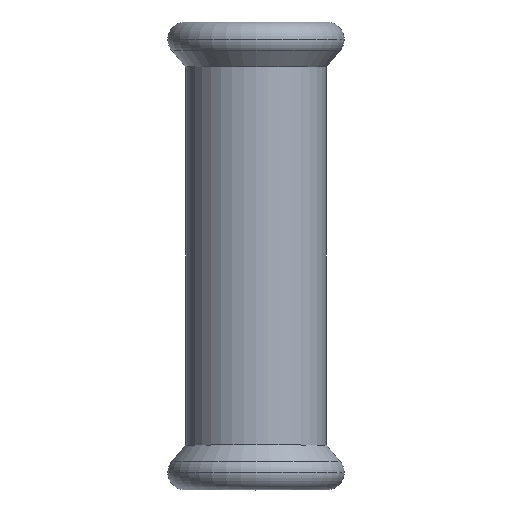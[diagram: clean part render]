
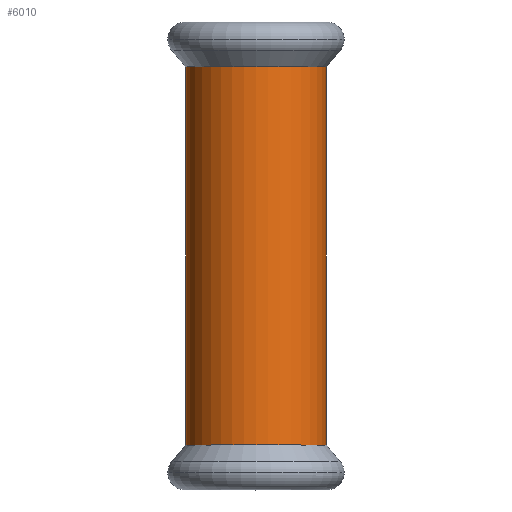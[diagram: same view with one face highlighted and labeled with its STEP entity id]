
A CAD part, top view. The second image highlights one B-rep face of the part: STEP entity #6010.
In plain terms, the highlighted cylindrical face has radius 12.65 mm (diameter 25.3 mm), a partial arc.
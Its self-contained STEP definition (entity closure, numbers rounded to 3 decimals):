
#1380=CARTESIAN_POINT('',(-306.641,56.893,0.));
#1390=VERTEX_POINT('',#1380);
#1570=CARTESIAN_POINT('',(-331.941,56.893,
0.));
#1580=VERTEX_POINT('',#1570);
#1610=CARTESIAN_POINT('',(-319.291,56.893,0.));
#1620=DIRECTION('',(0.,1.,0.));
#1630=DIRECTION('',(-1.,0.,0.));
#1640=AXIS2_PLACEMENT_3D('',#1610,#1620,#1630);
#1650=CIRCLE('',#1640,12.65);
#1710=CARTESIAN_POINT('',(-319.291,50.141,0.));
#1720=DIRECTION('',(0.,-1.,0.));
#1730=DIRECTION('',(-1.,0.,0.));
#1740=AXIS2_PLACEMENT_3D('',#1710,#1720,#1730);
#1750=CYLINDRICAL_SURFACE('',#1740,12.65);
#1760=CARTESIAN_POINT('',(-306.641,50.141,
0.));
#1770=DIRECTION('',(0.,-1.,0.));
#1780=VECTOR('',#1770,1.);
#1790=LINE('',#1760,#1780);
#1800=CARTESIAN_POINT('',(-306.641,-11.024,
0.));
#1810=VERTEX_POINT('',#1800);
#1820=EDGE_CURVE('',#1390,#1810,#1790,.T.);
#1850=CARTESIAN_POINT('',(-331.941,50.141,0.));
#1860=DIRECTION('',(0.,-1.,0.));
#1870=VECTOR('',#1860,1.);
#1880=LINE('',#1850,#1870);
#1890=CARTESIAN_POINT('',(-331.941,-11.024,0.));
#1900=VERTEX_POINT('',#1890);
#1910=EDGE_CURVE('',#1580,#1900,#1880,.T.);
#1930=CARTESIAN_POINT('',(-319.291,-11.024,0.));
#1940=DIRECTION('',(0.,-1.,0.));
#1950=DIRECTION('',(1.,0.,0.));
#1960=AXIS2_PLACEMENT_3D('',#1930,#1940,#1950);
#1970=CIRCLE('',#1960,12.65);
#5110=EDGE_CURVE('',#1810,#1900,#1970,.T.);
#5460=EDGE_CURVE('',#1580,#1390,#1650,.T.);
#5950=ORIENTED_EDGE('',*,*,#5460,.F.);
#5960=ORIENTED_EDGE('',*,*,#1820,.F.);
#5970=ORIENTED_EDGE('',*,*,#5110,.F.);
#5980=ORIENTED_EDGE('',*,*,#1910,.T.);
#5990=EDGE_LOOP('',(#5980,#5970,#5960,#5950));
#6000=FACE_OUTER_BOUND('',#5990,.T.);
#6010=ADVANCED_FACE('',(#6000),#1750,.T.);
